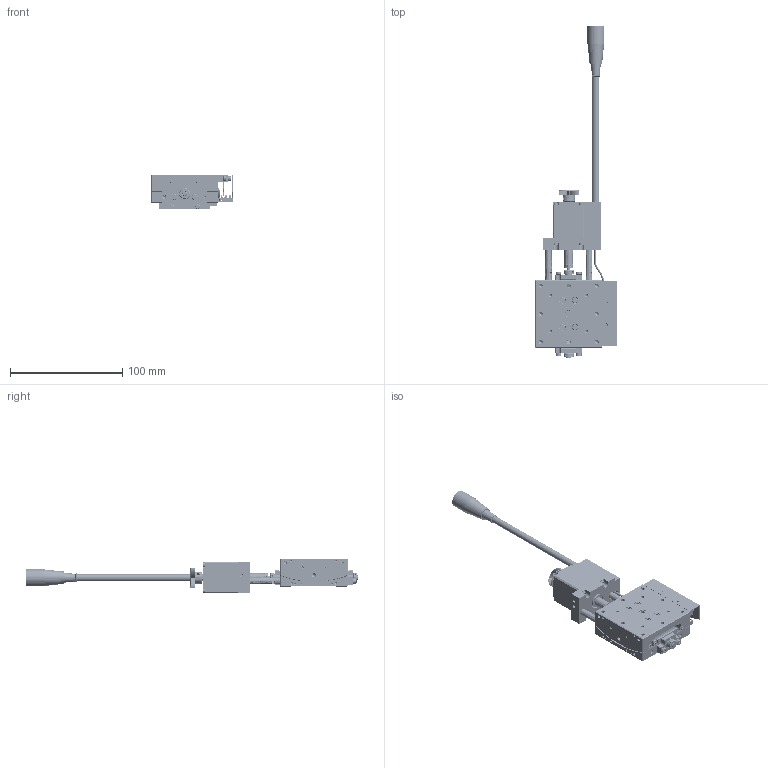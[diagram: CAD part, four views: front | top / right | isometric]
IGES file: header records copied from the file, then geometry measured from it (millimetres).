
Start section: SolidWorks IGES file using analytic representation for surfaces
Global section: file name: E:\0产品2d3d图纸-20180629\03PHTM\60\IGS\PHTM-60A60(A).IGS; native system: SolidWorks 2015; preprocessor: SolidWorks 2015; author: Administrator; date: 190118.174414; units: millimetre
Bounding box: 73 x 295.3 x 31.06 mm (x, y, z)
Surface area: 71199 mm2 (no closed solid volume)
Topology: 0 solids, 0 shells, 3070 faces, 33298 edges, 33212 vertices
Faces by surface type: bspline 1764, revolution 1306
